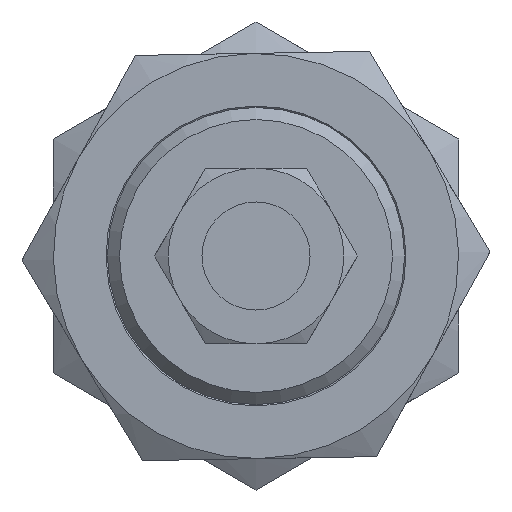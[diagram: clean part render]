
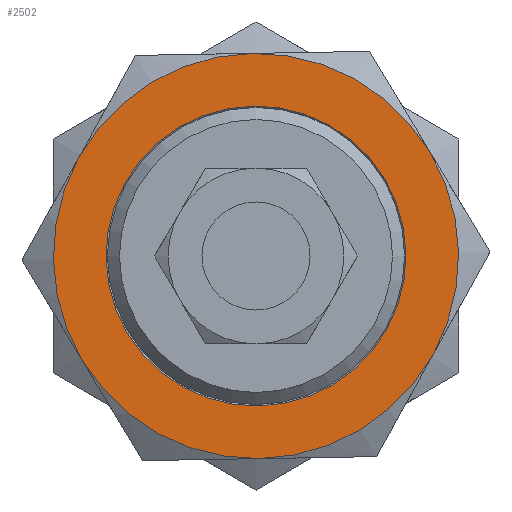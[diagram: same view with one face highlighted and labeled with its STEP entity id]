
A CAD part, front view. The second image highlights one B-rep face of the part: STEP entity #2502.
In plain terms, the highlighted planar face has unit normal (0, -1, 0) as drawn and (0, 0, 1) by its records, which use the part's own axes.
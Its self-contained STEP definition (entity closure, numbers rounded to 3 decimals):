
#1978=CARTESIAN_POINT('',(7.5,12.99,7.0));
#1979=VERTEX_POINT('',#1978);
#1993=CARTESIAN_POINT('',(-7.5,12.99,7.0));
#1994=VERTEX_POINT('',#1993);
#2008=CARTESIAN_POINT('',(0.0,0.0,7.));
#2009=DIRECTION('',(0.0,0.0,1.0));
#2010=DIRECTION('',(0.0,-1.0,0.0));
#2011=AXIS2_PLACEMENT_3D('',#2008,#2009,#2010);
#2012=CIRCLE('',#2011,15.);
#2013=EDGE_CURVE('',#1979,#1994,#2012,.T.);
#2025=CARTESIAN_POINT('',(15.0,0.,7.0));
#2026=VERTEX_POINT('',#2025);
#2053=CARTESIAN_POINT('',(0.0,0.0,7.));
#2054=DIRECTION('',(0.0,0.0,1.0));
#2055=DIRECTION('',(0.0,-1.0,0.0));
#2056=AXIS2_PLACEMENT_3D('',#2053,#2054,#2055);
#2057=CIRCLE('',#2056,15.);
#2058=EDGE_CURVE('',#2026,#1979,#2057,.T.);
#2070=CARTESIAN_POINT('',(7.5,-12.99,7.0));
#2071=VERTEX_POINT('',#2070);
#2098=CARTESIAN_POINT('',(0.0,0.0,7.));
#2099=DIRECTION('',(0.0,0.0,1.0));
#2100=DIRECTION('',(0.0,-1.0,0.0));
#2101=AXIS2_PLACEMENT_3D('',#2098,#2099,#2100);
#2102=CIRCLE('',#2101,15.);
#2103=EDGE_CURVE('',#2071,#2026,#2102,.T.);
#2128=CARTESIAN_POINT('',(-7.5,-12.99,7.0));
#2129=VERTEX_POINT('',#2128);
#2130=CARTESIAN_POINT('',(0.0,0.0,7.));
#2131=DIRECTION('',(0.0,0.0,1.0));
#2132=DIRECTION('',(0.0,-1.0,0.0));
#2133=AXIS2_PLACEMENT_3D('',#2130,#2131,#2132);
#2134=CIRCLE('',#2133,15.);
#2135=EDGE_CURVE('',#2129,#2071,#2134,.T.);
#2173=CARTESIAN_POINT('',(-15.0,0.0,7.0));
#2174=VERTEX_POINT('',#2173);
#2175=CARTESIAN_POINT('',(0.0,0.0,7.));
#2176=DIRECTION('',(0.0,0.0,1.0));
#2177=DIRECTION('',(0.0,-1.0,0.0));
#2178=AXIS2_PLACEMENT_3D('',#2175,#2176,#2177);
#2179=CIRCLE('',#2178,15.);
#2180=EDGE_CURVE('',#2174,#2129,#2179,.T.);
#2218=CARTESIAN_POINT('',(0.0,0.0,7.));
#2219=DIRECTION('',(0.0,0.0,1.0));
#2220=DIRECTION('',(0.0,-1.0,0.0));
#2221=AXIS2_PLACEMENT_3D('',#2218,#2219,#2220);
#2222=CIRCLE('',#2221,15.);
#2223=EDGE_CURVE('',#1994,#2174,#2222,.T.);
#2378=CARTESIAN_POINT('',(11.1,0.0,7.));
#2379=VERTEX_POINT('',#2378);
#2380=CARTESIAN_POINT('',(0.0,0.0,7.));
#2381=DIRECTION('',(0.0,0.0,-1.0));
#2382=DIRECTION('',(1.0,0.0,0.0));
#2383=AXIS2_PLACEMENT_3D('',#2380,#2381,#2382);
#2384=CIRCLE('',#2383,11.1);
#2385=EDGE_CURVE('',#2379,#2379,#2384,.T.);
#2486=CARTESIAN_POINT('',(0.,0.,7.));
#2487=DIRECTION('',(0.0,0.0,1.0));
#2488=DIRECTION('',(1.0,0.0,0.0));
#2489=AXIS2_PLACEMENT_3D('',#2486,#2487,#2488);
#2490=PLANE('',#2489);
#2491=ORIENTED_EDGE('',*,*,#2223,.T.);
#2492=ORIENTED_EDGE('',*,*,#2180,.T.);
#2493=ORIENTED_EDGE('',*,*,#2135,.T.);
#2494=ORIENTED_EDGE('',*,*,#2103,.T.);
#2495=ORIENTED_EDGE('',*,*,#2058,.T.);
#2496=ORIENTED_EDGE('',*,*,#2013,.T.);
#2497=EDGE_LOOP('',(#2491,#2492,#2493,#2494,#2495,#2496));
#2498=FACE_OUTER_BOUND('',#2497,.T.);
#2499=ORIENTED_EDGE('',*,*,#2385,.T.);
#2500=EDGE_LOOP('',(#2499));
#2501=FACE_BOUND('',#2500,.T.);
#2502=ADVANCED_FACE('',(#2498,#2501),#2490,.T.);
